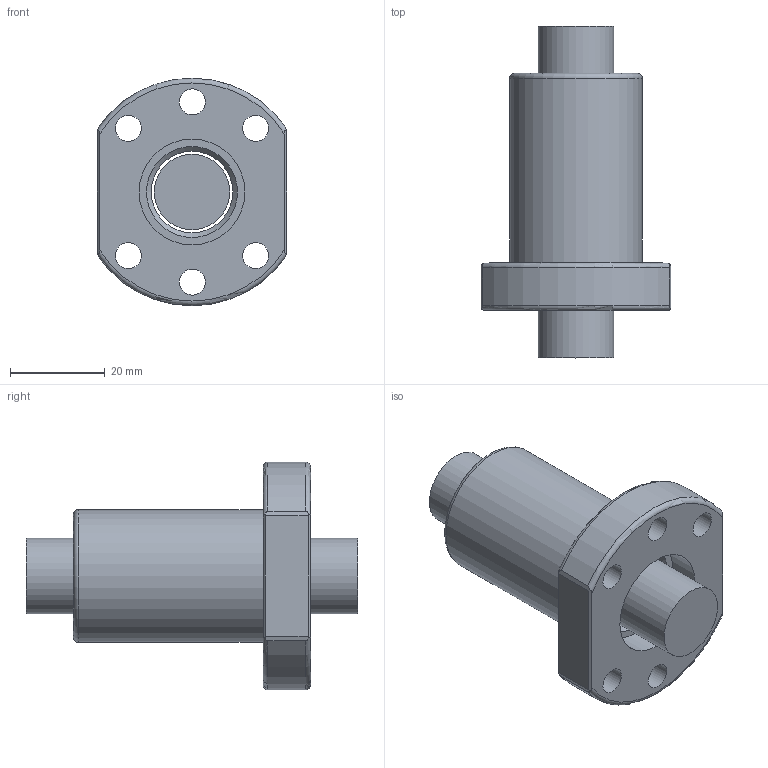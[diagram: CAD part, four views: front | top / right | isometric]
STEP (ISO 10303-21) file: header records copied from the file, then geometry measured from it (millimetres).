
FILE_DESCRIPTION(/* description */ (''),/* implementation_level */ '2;1');
FILE_NAME(/* name */ '1605T4.prt.step',/* time_stamp */ '2008-12-05T16:31:16+08:00',/* author */ (''),/* organization */ (''),/* preprocessor_version */ 'ST-DEVELOPER v11',/* originating_system */ 'SIEMENS UGS NX 6.0',/* authorisation */ '');
FILE_SCHEMA (('AUTOMOTIVE_DESIGN { 1 0 10303 214 1 1 1 1 }'));
Length unit declared in the file: millimetre
Products named in the file (1): 1605T4
Bounding box: 40 x 70 x 48 mm (x, y, z)
Volume: 40040.9 mm3; surface area: 15216.2 mm2
Topology: 2 solids, 2 shells, 37 faces, 94 edges, 64 vertices
Faces by surface type: plane 17, cylinder 13, torus 5, cone 2
Full cylindrical faces by diameter (mm): 5.5 x6, 15.95 x1, 17.2 x1, 22.3 x2, 28 x1
Entity records: 1266 total; most frequent: CARTESIAN_POINT 408, DIRECTION 166, ORIENTED_EDGE 146, EDGE_CURVE 73, AXIS2_PLACEMENT_3D 71, EDGE_LOOP 68, VERTEX_POINT 57, FACE_BOUND 50
